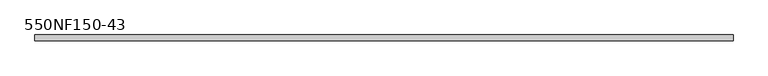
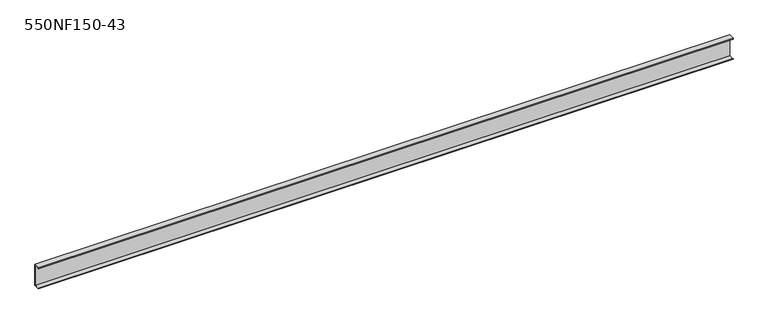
"""IFC4 building model written with IfcOpenShell, lengths in millimetres: beam geometry, BIMSF-SSMA-S : 550NF150-43."""

import ifcopenshell
import ifcopenshell.guid

model = None  # the IFC model being written
_history = None  # IfcOwnerHistory: only IFC2X3 demands one
_inside = {}  # id of a spatial element -> (the spatial element, [elements in it])
_under = {}  # id of a project, library or spatial element -> (it, [spatial elements below it])
_declared = {}  # id of a project -> (the project, [libraries it declares])
_typed = {}  # id of a type object -> (the type object, [elements of that type])
_made_of = {}  # id of a material, layer set ... -> (it, [elements and type objects made of it])


def new_model(schema):
    """Start an empty IFC model of exactly this schema.

    Asked for "IFC4X3", IfcOpenShell would pick the latest addendum, in which some entities
    have other attributes; the version numbers below select the first issue.
    IFC2X3 requires an IfcOwnerHistory on every rooted entity: one is made here for all.
    """
    global model, _history
    if schema == "IFC4X3":
        model = ifcopenshell.file(schema_version=(4, 3, 0, 0))
    else:
        model = ifcopenshell.file(schema=schema)
    _inside.clear()
    _under.clear()
    _declared.clear()
    _typed.clear()
    _made_of.clear()
    _history = None
    if model.schema == "IFC2X3":
        org = make("IfcOrganization", Name="unknown")
        user = make(
            "IfcPersonAndOrganization",
            ThePerson=make("IfcPerson", FamilyName="unknown"),
            TheOrganization=org,
        )
        app = make(
            "IfcApplication",
            ApplicationDeveloper=org,
            Version="unknown",
            ApplicationFullName="unknown",
            ApplicationIdentifier="unknown",
        )
        _history = make(
            "IfcOwnerHistory",
            OwningUser=user,
            OwningApplication=app,
            ChangeAction="ADDED",
            CreationDate=0,
        )
    return model


def make(cls, **values):
    """One entity of the class cls with the attributes given. An attribute that is None is left unset."""
    return model.create_entity(
        cls, **{name: value for name, value in values.items() if value is not None}
    )


def rooted(cls, **values):
    """An entity with a GlobalId (a new one), such as an element, a storey or a relation."""
    return make(cls, GlobalId=ifcopenshell.guid.new(), OwnerHistory=_history, **values)


def si_unit(unit_type, name, prefix=None):
    """IfcSIUnit, for example si_unit("LENGTHUNIT", "METRE", prefix="MILLI")."""
    return make("IfcSIUnit", UnitType=unit_type, Prefix=prefix, Name=name)


def assignment(units):
    """IfcUnitAssignment: the units of a project."""
    return None if units is None else make("IfcUnitAssignment", Units=units)


def point(xyz):
    """IfcCartesianPoint."""
    return None if xyz is None else make("IfcCartesianPoint", Coordinates=xyz)


def direction(xyz):
    """IfcDirection."""
    return None if xyz is None else make("IfcDirection", DirectionRatios=xyz)


def frame(location, z_axis=None, x_axis=None):
    """IfcAxis2Placement3D, a coordinate frame: its origin and axes. An axis left out is left unset."""
    return make(
        "IfcAxis2Placement3D",
        Location=point(location),
        Axis=direction(z_axis),
        RefDirection=direction(x_axis),
    )


def origin():
    """The frame at (0, 0, 0) with its axes left unset."""
    return frame((0.0, 0.0, 0.0))


def place(relative_to, where):
    """IfcLocalPlacement: puts the frame where relative to a parent placement (None: the world)."""
    return make(
        "IfcLocalPlacement", PlacementRelTo=relative_to, RelativePlacement=where
    )


def context(
    kind, dimensions, precision=None, world=None, true_north=None, identifier=None
):
    """IfcGeometricRepresentationContext, for example the 3D "Model" context."""
    return make(
        "IfcGeometricRepresentationContext",
        ContextIdentifier=identifier,
        ContextType=kind,
        CoordinateSpaceDimension=dimensions,
        Precision=precision,
        WorldCoordinateSystem=world,
        TrueNorth=true_north,
    )


def project(units=None, contexts=None):
    """IfcProject with its units and contexts."""
    return rooted(
        "IfcProject",
        Name="project",
        RepresentationContexts=contexts,
        UnitsInContext=assignment(units),
    )


def spatial(cls, under=None, at=None, **own):
    """A site, building, storey or space (cls), placed at a placement, below another one or the project."""
    s = rooted(cls, ObjectPlacement=at, **own)
    if under is not None:
        _under.setdefault(under.id(), (under, []))[1].append(s)
    return s


def polyline(points):
    """IfcPolyline through the points."""
    return make("IfcPolyline", Points=[point(p) for p in points])


def outline(outer, holes=None, kind="AREA"):
    """IfcArbitraryClosedProfileDef: a profile drawn as a closed curve; with holes, ...WithVoids."""
    if holes is None:
        return make("IfcArbitraryClosedProfileDef", ProfileType=kind, OuterCurve=outer)
    return make(
        "IfcArbitraryProfileDefWithVoids",
        ProfileType=kind,
        OuterCurve=outer,
        InnerCurves=holes,
    )


def extrude(swept, where, along, depth):
    """IfcExtrudedAreaSolid: the profile swept, set in the frame where, extruded along a direction by depth."""
    return make(
        "IfcExtrudedAreaSolid",
        SweptArea=swept,
        Position=where,
        ExtrudedDirection=direction(along),
        Depth=depth,
    )


def shape(context_of_items, identifier, shape_type, items):
    """IfcShapeRepresentation: the items that make up one representation, for example the "Body"."""
    return make(
        "IfcShapeRepresentation",
        ContextOfItems=context_of_items,
        RepresentationIdentifier=identifier,
        RepresentationType=shape_type,
        Items=items,
    )


def source(mapping_origin, context_of_items, identifier, shape_type, items):
    """IfcRepresentationMap: a shape defined once, which mapped items show again and again."""
    return make(
        "IfcRepresentationMap",
        MappingOrigin=mapping_origin,
        MappedRepresentation=shape(context_of_items, identifier, shape_type, items),
    )


def transform(
    local_origin,
    x_axis=None,
    y_axis=None,
    z_axis=None,
    scale=None,
    scale2=None,
    scale3=None,
    uniform=True,
):
    """IfcCartesianTransformationOperator3D, or its non-uniform kind. x_axis, y_axis, z_axis: its Axis1, 2, 3."""
    if uniform:
        return make(
            "IfcCartesianTransformationOperator3D",
            Axis1=direction(x_axis),
            Axis2=direction(y_axis),
            LocalOrigin=point(local_origin),
            Scale=scale,
            Axis3=direction(z_axis),
        )
    return make(
        "IfcCartesianTransformationOperator3DnonUniform",
        Axis1=direction(x_axis),
        Axis2=direction(y_axis),
        LocalOrigin=point(local_origin),
        Scale=scale,
        Axis3=direction(z_axis),
        Scale2=scale2,
        Scale3=scale3,
    )


def mapped(mapping_source, mapping_target):
    """IfcMappedItem: shows the shape of a source again, moved by a transform."""
    return make(
        "IfcMappedItem", MappingSource=mapping_source, MappingTarget=mapping_target
    )


def made_of(thing, what):
    """Note that an element or type object is made of a material, layer set ...; save() writes the relation."""
    if what is not None:
        _made_of.setdefault(what.id(), (what, []))[1].append(thing)
    return thing


def element(
    cls,
    number,
    at=None,
    inside=None,
    cuts=None,
    type_object=None,
    material=None,
    context=None,
    identifier="Body",
    shape_type=None,
    held_by="IfcProductDefinitionShape",
    body=None,
    shapes=None,
    **own,
):
    """One element of the class cls, such as IfcWall. Its Tag is "e" and its number.

    at: its placement. inside: the storey or other place that contains it. cuts: it is an
    opening in that element (IfcRelVoidsElement). A single representation is given by context,
    identifier, shape_type and body (its items); several are given by shapes. held_by: the class
    of the entity that holds the representations. save() writes the other relations.
    """
    e = rooted(cls, Tag="e%d" % number, ObjectPlacement=at, **own)
    if body is not None:
        shapes = [shape(context, identifier, shape_type, body)]
    if shapes is not None:
        e.Representation = make(held_by, Representations=shapes)
    if inside is not None:
        _inside.setdefault(inside.id(), (inside, []))[1].append(e)
    if cuts is not None:
        rooted(
            "IfcRelVoidsElement", RelatingBuildingElement=cuts, RelatedOpeningElement=e
        )
    if type_object is not None:
        _typed.setdefault(type_object.id(), (type_object, []))[1].append(e)
    return made_of(e, material)


def aggregate(whole, parts):
    """IfcRelAggregates: a whole, such as a stair, and the parts it consists of."""
    return rooted("IfcRelAggregates", RelatingObject=whole, RelatedObjects=parts)


def save(model, path):
    """Write the relations noted so far, then the file.

    IfcRelAggregates (storeys below a building ...), IfcRelContainedInSpatialStructure (elements
    in a storey), IfcRelDefinesByType, IfcRelAssociatesMaterial and IfcRelDeclares: one each for
    every whole, place, type object, material and project.
    """
    for whole, parts in _under.values():
        aggregate(whole, parts)
    for where, things in _inside.values():
        rooted(
            "IfcRelContainedInSpatialStructure",
            RelatedElements=things,
            RelatingStructure=where,
        )
    for kind, things in _typed.values():
        rooted("IfcRelDefinesByType", RelatedObjects=things, RelatingType=kind)
    for what, things in _made_of.values():
        rooted("IfcRelAssociatesMaterial", RelatedObjects=things, RelatingMaterial=what)
    for by, libraries in _declared.values():
        rooted("IfcRelDeclares", RelatingContext=by, RelatedDefinitions=libraries)
    model.write(path)


def beam_550nf150_43_77635b96(model_context):
    return source(origin(), model_context, "Body", "SweptSolid", [
        extrude(outline(polyline([(19.05, 69.85), (19.05, -69.85), (-19.05, -69.85), (-19.05, -65.0748), (-17.9003158, -65.0748), (-17.9003158, -68.7003158), (17.9003158, -68.7003158), (17.9003158, 68.7003158), (-17.9003158, 68.7003158), (-17.9003158, 65.0748), (-19.05, 65.0748), (-19.05, 69.85), (19.05, 69.85)])), frame((-2185.19375, 0.0, 0.0), z_axis=(1.0, 0.0, 0.0), x_axis=(0.0, 1.0, 0.0)), (0.0, 0.0, 1.0), 4370.3875),
    ])


if __name__ == "__main__":
    model = new_model("IFC4")
    model_context = context("Model", 3, world=origin())
    ifc_project = project(units=[si_unit("LENGTHUNIT", "METRE", prefix="MILLI")], contexts=[model_context])
    site = spatial("IfcSite", under=ifc_project)
    building = spatial("IfcBuilding", under=site)
    placement = place(None, origin())
    beam_550nf150_43_shape = beam_550nf150_43_77635b96(model_context)
    element("IfcBeam", 1, ObjectType="BIMSF-SSMA-S : 550NF150-43", at=placement, inside=building, context=model_context, shape_type="MappedRepresentation", body=[
        mapped(beam_550nf150_43_shape, transform((0.0, 0.0, 0.0), x_axis=(1.0, 0.0, 0.0), y_axis=(0.0, 1.0, 0.0), z_axis=(0.0, 0.0, 1.0))),
    ])
    save(model, "model.ifc")
